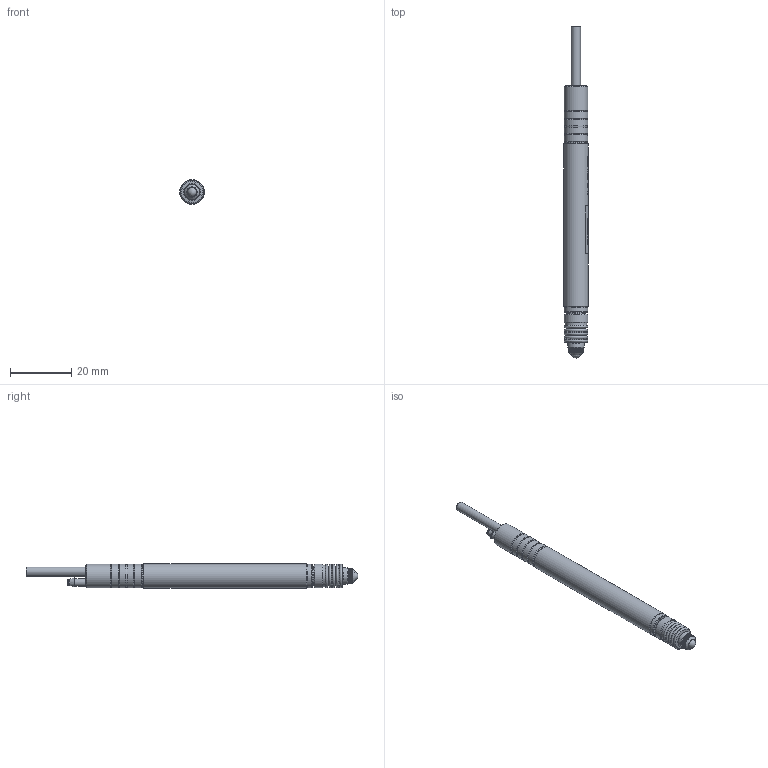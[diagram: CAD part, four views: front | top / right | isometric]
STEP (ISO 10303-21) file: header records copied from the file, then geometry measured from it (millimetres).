
FILE_DESCRIPTION (( 'STEP AP203' ), '1' );
FILE_NAME ('IMS-5PC.STEP', '2022-11-08T15:40:18', ( '' ), ( '' ), 'SwSTEP 2.0', 'SolidWorks 2016', '' );
FILE_SCHEMA (( 'CONFIG_CONTROL_DESIGN' ));
Length unit declared in the file: millimetre
Products named in the file (1): IMS-5PC
Bounding box: 8.01 x 108.83 x 8 mm (x, y, z)
Surface area: 3435.9 mm2 (no closed solid volume)
Topology: 0 solids, 203 shells, 567 faces, 2861 edges, 2460 vertices
Faces by surface type: bspline 330, cylinder 164, cone 37, plane 19, torus 16, sphere 1
Full cylindrical faces by diameter (mm): 1.1 x1, 2 x1, 2.5 x1, 3 x1, 3.3 x1, 4.6 x1, 5.5 x1, 6.3 x1, 6.7 x1, 7.1 x1, 7.25 x1, 7.8 x7, 8 x1
Entity records: 35511 total; most frequent: CARTESIAN_POINT 21250, ORIENTED_EDGE 3152, EDGE_CURVE 2773, VERTEX_POINT 2448, DIRECTION 1280, B_SPLINE_CURVE_WITH_KNOTS 857, EDGE_LOOP 698, FACE_OUTER_BOUND 601
